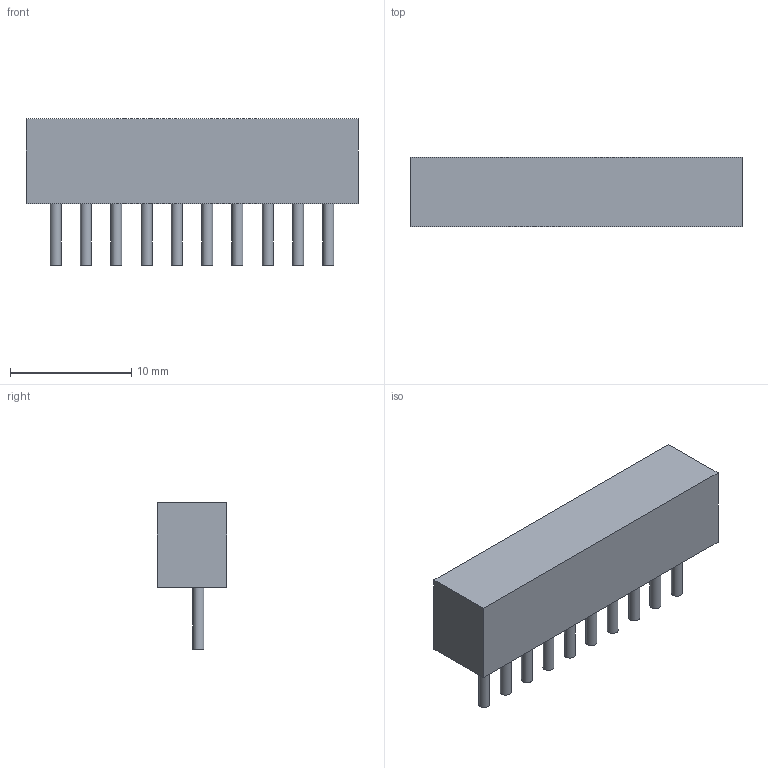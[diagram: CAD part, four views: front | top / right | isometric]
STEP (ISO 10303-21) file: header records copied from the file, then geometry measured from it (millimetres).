
FILE_DESCRIPTION(('FreeCAD Model'),'2;1');
FILE_NAME('/var/www/3D/0T/652703.1.2.stp','2025-02-20T15:25:44',( 'Author'),(''),'Open CASCADE STEP processor 6.9','FreeCAD','Unknown' );
FILE_SCHEMA(('AUTOMOTIVE_DESIGN { 1 0 10303 214 1 1 1 1 }'));
Length unit declared in the file: millimetre
Products named in the file (3): ASSEMBLY; Body; Leads
Assembly tree (2 placements, depth 2):
  ASSEMBLY
    Body
    Leads
Bounding box: 27.4 x 5.75 x 12.1 mm (x, y, z)
Volume: 1136 mm3; surface area: 938 mm2
Topology: 11 solids, 11 shells, 36 faces, 42 edges, 28 vertices
Faces by surface type: plane 26, cylinder 10
Full cylindrical faces by diameter (mm): 0.91 x10
Entity records: 1381 total; most frequent: DIRECTION 224, CARTESIAN_POINT 193, LINE 86, VECTOR 86, ORIENTED_EDGE 84, PCURVE 84, DEFINITIONAL_REPRESENTATION 84, AXIS2_PLACEMENT_3D 59
